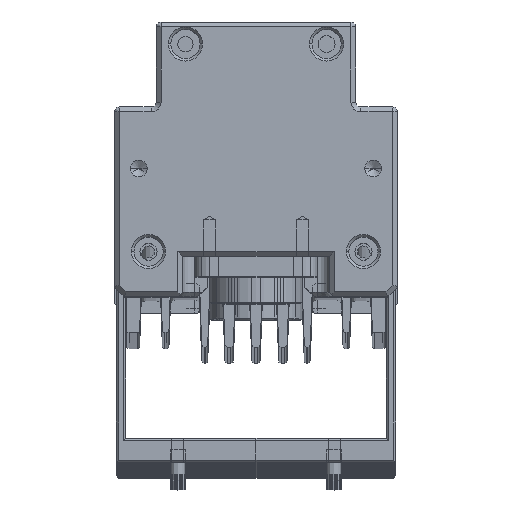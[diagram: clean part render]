
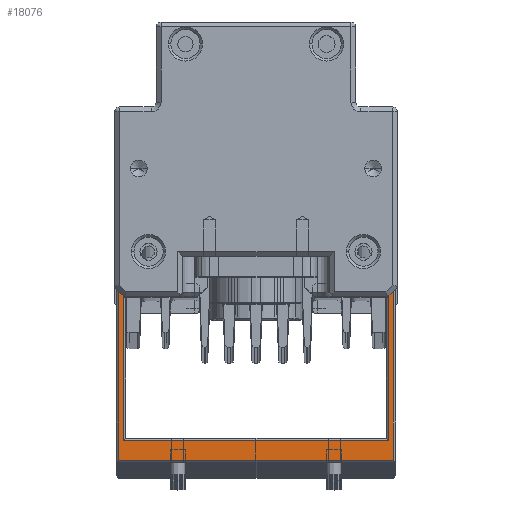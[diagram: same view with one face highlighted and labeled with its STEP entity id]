
A CAD part, top view. The second image highlights one B-rep face of the part: STEP entity #18076.
In plain terms, the highlighted planar face has unit normal (0, 0, 1).
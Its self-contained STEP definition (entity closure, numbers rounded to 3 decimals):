
#17001=DIRECTION('',(-1.,0.,0.));
#17002=VECTOR('',#17001,5.15);
#17003=CARTESIAN_POINT('',(28.15,-20.6,22.));
#17004=LINE('',#17003,#17002);
#17005=DIRECTION('',(0.,1.,0.));
#17006=VECTOR('',#17005,40.5);
#17007=CARTESIAN_POINT('',(28.15,-61.1,22.));
#17008=LINE('',#17007,#17006);
#17009=DIRECTION('',(1.,0.,0.));
#17010=VECTOR('',#17009,56.3);
#17011=CARTESIAN_POINT('',(-28.15,-61.1,22.));
#17012=LINE('',#17011,#17010);
#17013=DIRECTION('',(0.,-1.,0.));
#17014=VECTOR('',#17013,40.5);
#17015=CARTESIAN_POINT('',(-28.15,-20.6,22.));
#17016=LINE('',#17015,#17014);
#17017=DIRECTION('',(-1.,0.,0.));
#17018=VECTOR('',#17017,5.15);
#17019=CARTESIAN_POINT('',(-23.,-20.6,22.));
#17020=LINE('',#17019,#17018);
#17021=DIRECTION('',(0.,1.,0.));
#17022=VECTOR('',#17021,1.);
#17023=CARTESIAN_POINT('',(-23.,-21.6,22.));
#17024=LINE('',#17023,#17022);
#17025=DIRECTION('',(1.,0.,0.));
#17026=VECTOR('',#17025,4.15);
#17027=CARTESIAN_POINT('',(-27.15,-21.6,22.));
#17028=LINE('',#17027,#17026);
#17029=DIRECTION('',(0.,1.,0.));
#17030=VECTOR('',#17029,35.5);
#17031=CARTESIAN_POINT('',(-27.15,-57.1,22.));
#17032=LINE('',#17031,#17030);
#17033=DIRECTION('',(-1.,0.,0.));
#17034=VECTOR('',#17033,54.3);
#17035=CARTESIAN_POINT('',(27.15,-57.1,22.));
#17036=LINE('',#17035,#17034);
#17037=DIRECTION('',(0.,-1.,0.));
#17038=VECTOR('',#17037,35.5);
#17039=CARTESIAN_POINT('',(27.15,-21.6,22.));
#17040=LINE('',#17039,#17038);
#17041=DIRECTION('',(1.,0.,0.));
#17042=VECTOR('',#17041,4.15);
#17043=CARTESIAN_POINT('',(23.,-21.6,22.));
#17044=LINE('',#17043,#17042);
#17045=DIRECTION('',(0.,-1.,0.));
#17046=VECTOR('',#17045,1.);
#17047=CARTESIAN_POINT('',(23.,-20.6,22.));
#17048=LINE('',#17047,#17046);
#17407=CARTESIAN_POINT('',(23.,-20.6,22.));
#17409=VERTEX_POINT('',#17407);
#17411=CARTESIAN_POINT('',(28.15,-20.6,22.));
#17412=VERTEX_POINT('',#17411);
#17413=CARTESIAN_POINT('',(28.15,-61.1,22.));
#17414=VERTEX_POINT('',#17413);
#17447=CARTESIAN_POINT('',(-23.,-21.6,22.));
#17449=VERTEX_POINT('',#17447);
#17453=CARTESIAN_POINT('',(-27.15,-21.6,22.));
#17454=VERTEX_POINT('',#17453);
#17457=CARTESIAN_POINT('',(-27.15,-57.1,22.));
#17458=VERTEX_POINT('',#17457);
#17463=CARTESIAN_POINT('',(27.15,-21.6,22.));
#17464=CARTESIAN_POINT('',(27.15,-57.1,22.));
#17465=VERTEX_POINT('',#17463);
#17466=VERTEX_POINT('',#17464);
#17468=CARTESIAN_POINT('',(23.,-21.6,22.));
#17470=VERTEX_POINT('',#17468);
#17471=CARTESIAN_POINT('',(-28.15,-20.6,22.));
#17472=CARTESIAN_POINT('',(-28.15,-61.1,22.));
#17473=VERTEX_POINT('',#17471);
#17474=VERTEX_POINT('',#17472);
#17476=CARTESIAN_POINT('',(-23.,-20.6,22.));
#17478=VERTEX_POINT('',#17476);
#18048=CARTESIAN_POINT('',(0.,0.,22.));
#18049=DIRECTION('',(0.,0.,1.));
#18050=DIRECTION('',(-1.,0.,0.));
#18051=AXIS2_PLACEMENT_3D('',#18048,#18049,#18050);
#18052=PLANE('',#18051);
#18054=ORIENTED_EDGE('',*,*,#18053,.F.);
#18056=ORIENTED_EDGE('',*,*,#18055,.F.);
#18058=ORIENTED_EDGE('',*,*,#18057,.F.);
#18059=ORIENTED_EDGE('',*,*,#18012,.F.);
#18060=ORIENTED_EDGE('',*,*,#18030,.F.);
#18061=ORIENTED_EDGE('',*,*,#17767,.F.);
#18063=ORIENTED_EDGE('',*,*,#18062,.F.);
#18065=ORIENTED_EDGE('',*,*,#18064,.F.);
#18067=ORIENTED_EDGE('',*,*,#18066,.F.);
#18069=ORIENTED_EDGE('',*,*,#18068,.F.);
#18071=ORIENTED_EDGE('',*,*,#18070,.F.);
#18073=ORIENTED_EDGE('',*,*,#18072,.F.);
#18074=EDGE_LOOP('',(#18054,#18056,#18058,#18059,#18060,#18061,#18063,#18065,
#18067,#18069,#18071,#18073));
#18075=FACE_OUTER_BOUND('',#18074,.F.);
#17767=EDGE_CURVE('',#17449,#17478,#17024,.T.);
#18012=EDGE_CURVE('',#17473,#17474,#17016,.T.);
#18030=EDGE_CURVE('',#17478,#17473,#17020,.T.);
#18053=EDGE_CURVE('',#17412,#17409,#17004,.T.);
#18055=EDGE_CURVE('',#17414,#17412,#17008,.T.);
#18057=EDGE_CURVE('',#17474,#17414,#17012,.T.);
#18062=EDGE_CURVE('',#17454,#17449,#17028,.T.);
#18064=EDGE_CURVE('',#17458,#17454,#17032,.T.);
#18066=EDGE_CURVE('',#17466,#17458,#17036,.T.);
#18068=EDGE_CURVE('',#17465,#17466,#17040,.T.);
#18070=EDGE_CURVE('',#17470,#17465,#17044,.T.);
#18072=EDGE_CURVE('',#17409,#17470,#17048,.T.);
#18076=ADVANCED_FACE('',(#18075),#18052,.T.);
